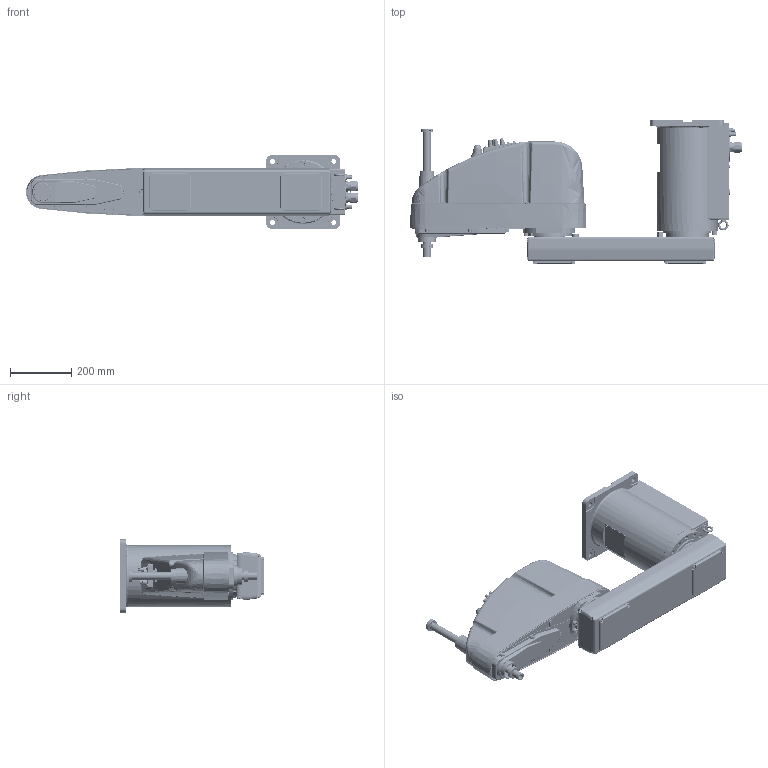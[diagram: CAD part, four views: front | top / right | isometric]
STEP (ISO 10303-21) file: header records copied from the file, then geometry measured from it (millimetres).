
FILE_DESCRIPTION((''),'2;1');
FILE_NAME('G10-851SR_ASM','2009-07-10T',('0179539'),(''),'PRO/ENGINEER BY PARAMETRIC TECHNOLOGY CORPORATION, 2006510','PRO/ENGINEER BY PARAMETRIC TECHNOLOGY CORPORATION, 2006510','');
FILE_SCHEMA(('AUTOMOTIVE_DESIGN_CC2 { 1 2 10303 214 -1 1 5 2 }'));
Length unit declared in the file: millimetre
Products named in the file (5): BASE_SR; J1_SWR_85; J2_SR-85; SHAFT_180-85; G10-851SR_ASM
Assembly tree (4 placements, depth 2):
  G10-851SR_ASM
    BASE_SR
    J1_SWR_85
    J2_SR-85
    SHAFT_180-85
Bounding box: 1084.34 x 469 x 240 mm (x, y, z)
Volume: 10666829.7 mm3; surface area: 3084051.9 mm2
Topology: 4 solids, 8 shells, 4771 faces, 12052 edges, 7690 vertices
Faces by surface type: plane 2325, cylinder 1565, cone 464, bspline 237, torus 177, sphere 2, extrusion 1
Entity records: 201381 total; most frequent: CARTESIAN_POINT 51851, DIRECTION 24077, ORIENTED_EDGE 23908, EDGE_CURVE 11954, AXIS2_PLACEMENT_3D 8513, VERTEX_POINT 7690, VECTOR 7051, LINE 7050
